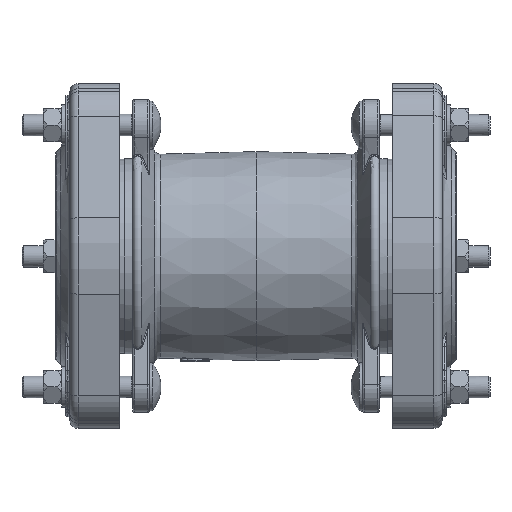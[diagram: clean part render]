
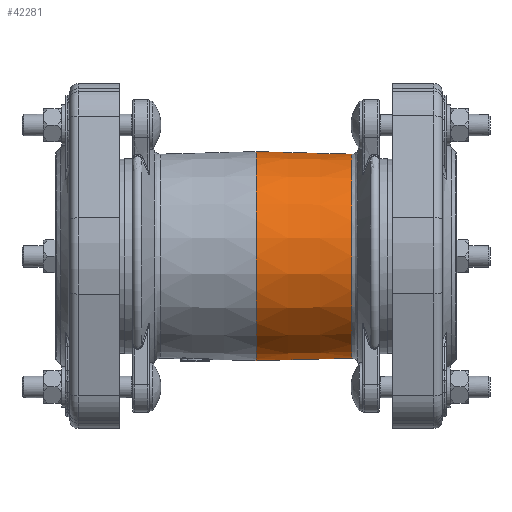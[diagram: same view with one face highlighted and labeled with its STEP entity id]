
A CAD part, top view. The second image highlights one B-rep face of the part: STEP entity #42281.
In plain terms, the highlighted conical face has half-angle 1.478 degrees and reference radius 75.449 mm.
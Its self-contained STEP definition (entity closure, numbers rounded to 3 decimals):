
#30299=CARTESIAN_POINT('',(-90.,76.35,0.0));
#30300=VERTEX_POINT('',#30299);
#30301=CARTESIAN_POINT('',(-90.,0.0,0.0));
#30302=DIRECTION('',(1.0,0.0,0.0));
#30303=DIRECTION('',(0.0,1.0,0.0));
#30304=AXIS2_PLACEMENT_3D('',#30301,#30302,#30303);
#30305=CIRCLE('',#30304,76.35);
#30306=EDGE_CURVE('',#30300,#30300,#30305,.T.);
#42262=CARTESIAN_POINT('',(-55.072,0.0,0.0));
#42263=DIRECTION('',(-1.0,0.0,0.0));
#42264=DIRECTION('',(0.0,1.0,0.0));
#42265=AXIS2_PLACEMENT_3D('',#42262,#42263,#42264);
#42266=CONICAL_SURFACE('',#42265,75.449,1.478);
#42267=CARTESIAN_POINT('',(-20.144,74.548,0.0));
#42268=VERTEX_POINT('',#42267);
#42269=CARTESIAN_POINT('',(-20.144,0.0,0.0));
#42270=DIRECTION('',(1.0,0.0,0.0));
#42271=DIRECTION('',(0.0,1.0,0.0));
#42272=AXIS2_PLACEMENT_3D('',#42269,#42270,#42271);
#42273=CIRCLE('',#42272,74.548);
#42274=EDGE_CURVE('',#42268,#42268,#42273,.T.);
#42275=ORIENTED_EDGE('',*,*,#42274,.F.);
#42276=EDGE_LOOP('',(#42275));
#42277=FACE_OUTER_BOUND('',#42276,.T.);
#42278=ORIENTED_EDGE('',*,*,#30306,.T.);
#42279=EDGE_LOOP('',(#42278));
#42280=FACE_BOUND('',#42279,.T.);
#42281=ADVANCED_FACE('',(#42277,#42280),#42266,.T.);
